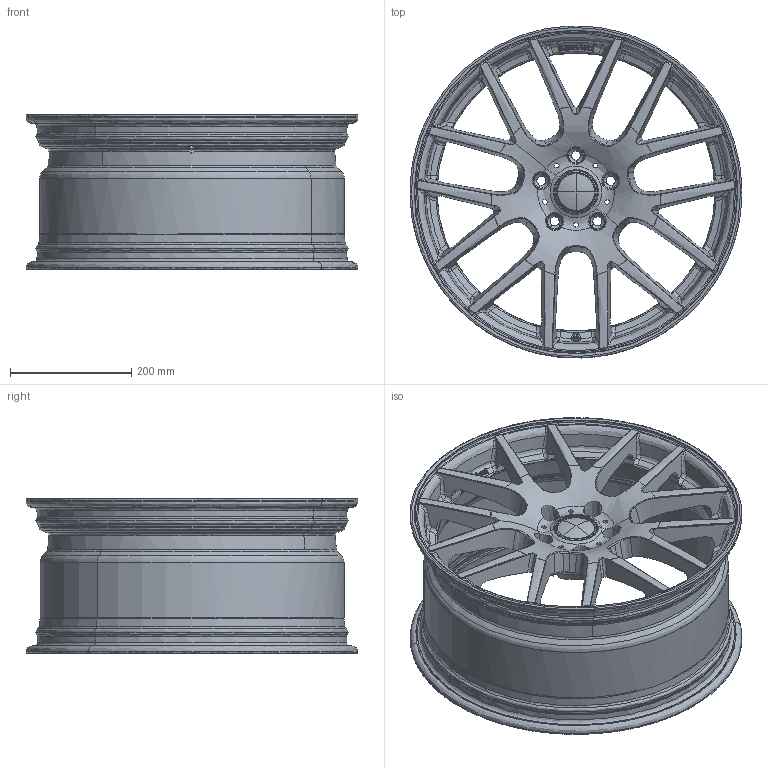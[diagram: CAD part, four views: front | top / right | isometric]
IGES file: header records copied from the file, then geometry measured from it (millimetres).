
Start section: START RECORD GO HERE.
Global section: file name: TR902451205R651BSP.igs; native system: DASSAULT SYSTEMES CATIA V5 R20 - www.3ds.com; preprocessor: CATIA Version 5 Release 20 SP 1 ; author: user; organization: RDHS-PC; date: 20140517.101055; units: millimetre
Bounding box: 547.4 x 547.32 x 254.47 mm (x, y, z)
Surface area: 1264034.4 mm2 (no closed solid volume)
Topology: 0 solids, 0 shells, 2292 faces, 14576 edges, 14426 vertices
Faces by surface type: bspline 1431, revolution 744, plane 70, extrusion 47
